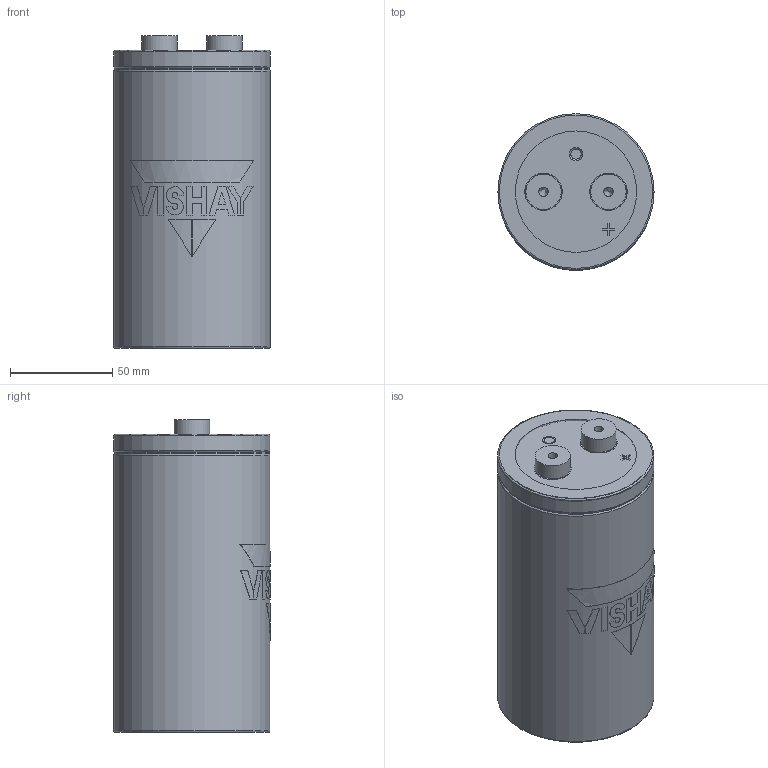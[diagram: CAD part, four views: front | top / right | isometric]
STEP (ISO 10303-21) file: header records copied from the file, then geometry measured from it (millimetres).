
FILE_DESCRIPTION(('FreeCAD Model'),'2;1');
FILE_NAME('C:/Users/tvandesteeg/Documents/Documents/FreeCAD/Stepfiles/ST capacitors/ST_HP_18mm_UNF14-28_76x146.step','2020-12-14T17:23:28',( 'Author'),(''),'Open CASCADE STEP processor 7.3','FreeCAD','Unknown' );
FILE_SCHEMA(('AUTOMOTIVE_DESIGN { 1 0 10303 214 1 1 1 1 }'));
Length unit declared in the file: millimetre
Products named in the file (8): VentBody; BottomBody; TerminalBody_(Mirror_#2); TerminalBody; TerminalHole; Disc; LogoPrint; CanBody
Bounding box: 76.4 x 76.5 x 153 mm (x, y, z)
Volume: 672507.4 mm3; surface area: 72915.4 mm2
Topology: 18 solids, 18 shells, 152 faces, 316 edges, 208 vertices
Faces by surface type: plane 95, cylinder 49, torus 5, cone 3
Full cylindrical faces by diameter (mm): 4.579 x2, 5 x2, 17.3 x2, 17.8 x7, 18.3 x2, 59.422 x3, 73.6 x2, 75 x1, 76.4 x2
Entity records: 10765 total; most frequent: CARTESIAN_POINT 3371, DIRECTION 1221, ORIENTED_EDGE 628, PCURVE 628, DEFINITIONAL_REPRESENTATION 628, LINE 537, VECTOR 537, EDGE_CURVE 314
